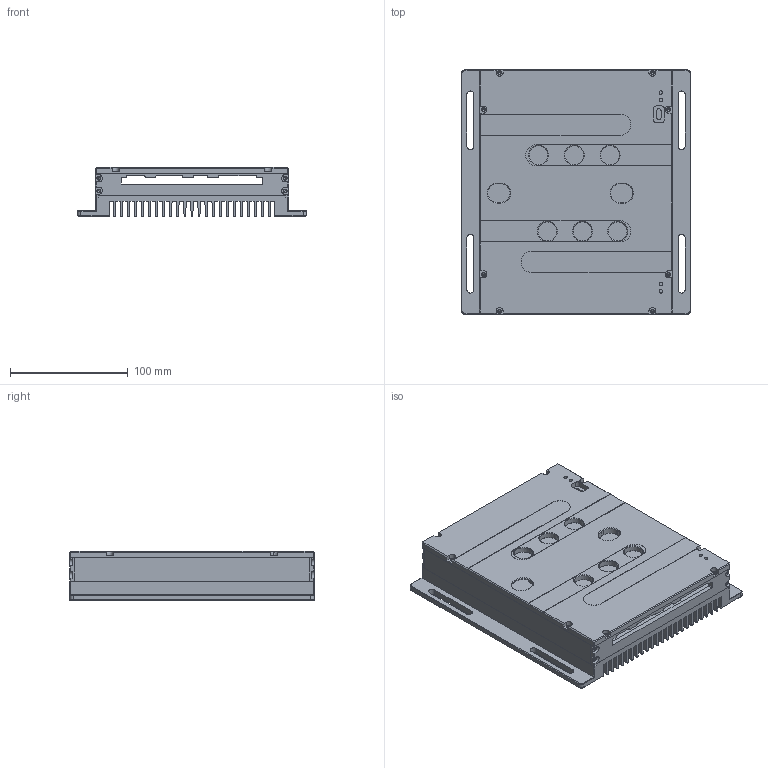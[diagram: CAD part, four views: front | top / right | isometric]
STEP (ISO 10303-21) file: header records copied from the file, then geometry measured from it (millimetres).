
FILE_DESCRIPTION(/* description */ (''),/* implementation_level */ '2;1');
FILE_NAME(/* name */ '双驱外壳模型.stp',/* time_stamp */ '2024-04-25T11:50:12+08:00',/* author */ (''),/* organization */ (''),/* preprocessor_version */ 'ST-DEVELOPER v16.7',/* originating_system */ 'SIEMENS PLM Software NX 12.0',/* authorisation */ '');
FILE_SCHEMA (('AP203_CONFIGURATION_CONTROLLED_3D_DESIGN_OF_MECHANICAL_PARTS_AND_ASSEMBLIES_MIM_LF { 1 0 10303 403 2 1 2}'));
Length unit declared in the file: millimetre
Products named in the file (1): Li Y0CB0BC4Bhbjy
Bounding box: 195 x 208 x 42.3 mm (x, y, z)
Volume: 579244.6 mm3; surface area: 328895.3 mm2
Topology: 6 solids, 6 shells, 554 faces, 1573 edges, 1039 vertices
Faces by surface type: plane 337, cylinder 177, cone 40
Full cylindrical faces by diameter (mm): 2.5 x26, 3 x4, 3.2 x20, 16 x6
Entity records: 17780 total; most frequent: CARTESIAN_POINT 3448, DIRECTION 2912, ORIENTED_EDGE 2870, EDGE_CURVE 1435, LINE 1054, VECTOR 1054, VERTEX_POINT 1001, AXIS2_PLACEMENT_3D 929
